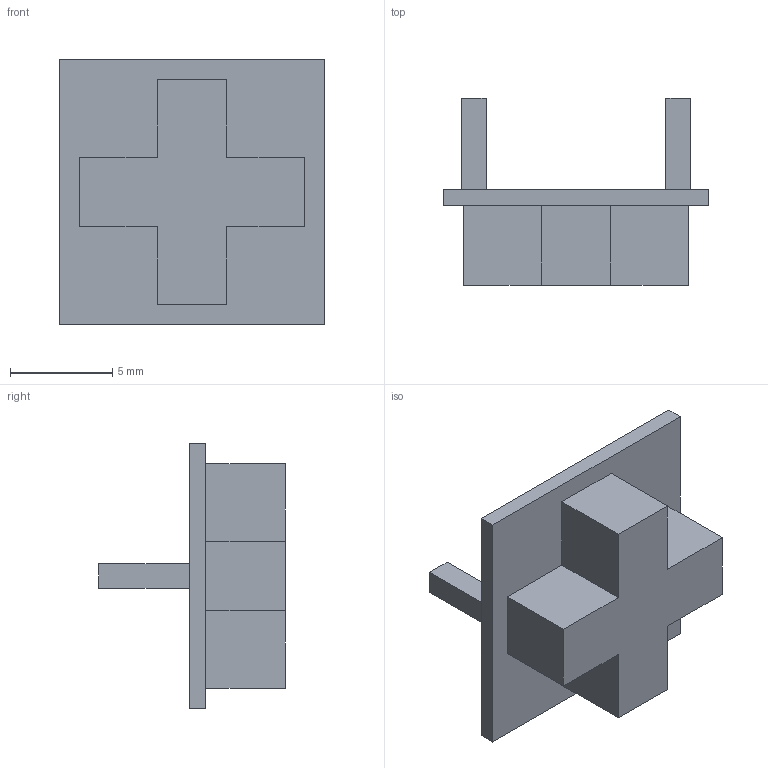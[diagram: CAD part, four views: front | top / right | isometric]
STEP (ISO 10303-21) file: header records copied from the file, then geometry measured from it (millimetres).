
FILE_DESCRIPTION(('FreeCAD Model'),'2;1');
FILE_NAME('Open CASCADE Shape Model','2026-11-17T15:16:24',('FreeCAD'),( 'FreeCAD'),'Open CASCADE STEP processor 7.8','FreeCAD','Unknown');
FILE_SCHEMA(('AUTOMOTIVE_DESIGN { 1 0 10303 214 1 1 1 1 }'));
Length unit declared in the file: millimetre
Products named in the file (1): Open CASCADE STEP translator 7.8 11
Bounding box: 13 x 9.15 x 13 mm (x, y, z)
Volume: 394.7 mm3; surface area: 593.9 mm2
Topology: 1 solids, 1 shells, 29 faces, 72 edges, 48 vertices
Faces by surface type: plane 29
Entity records: 856 total; most frequent: CARTESIAN_POINT 150, ORIENTED_EDGE 144, DIRECTION 132, EDGE_CURVE 72, LINE 72, VECTOR 72, VERTEX_POINT 48, FACE_BOUND 32
